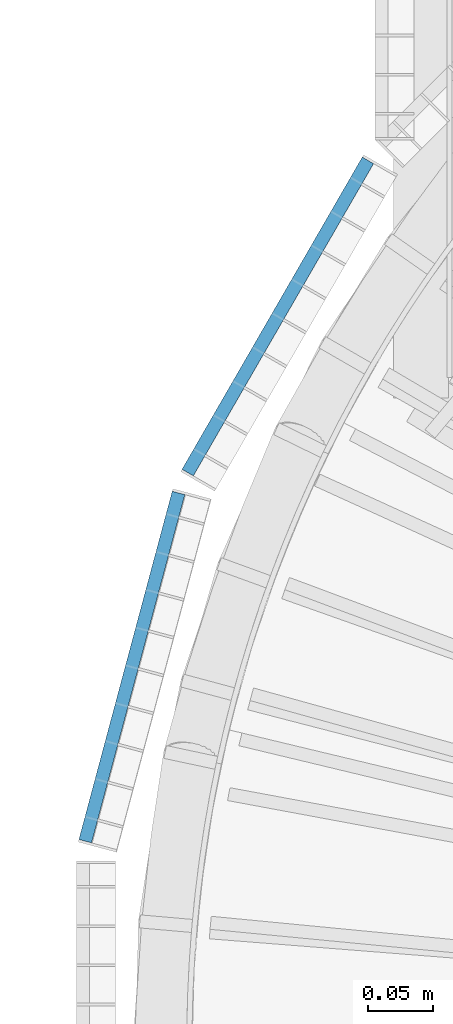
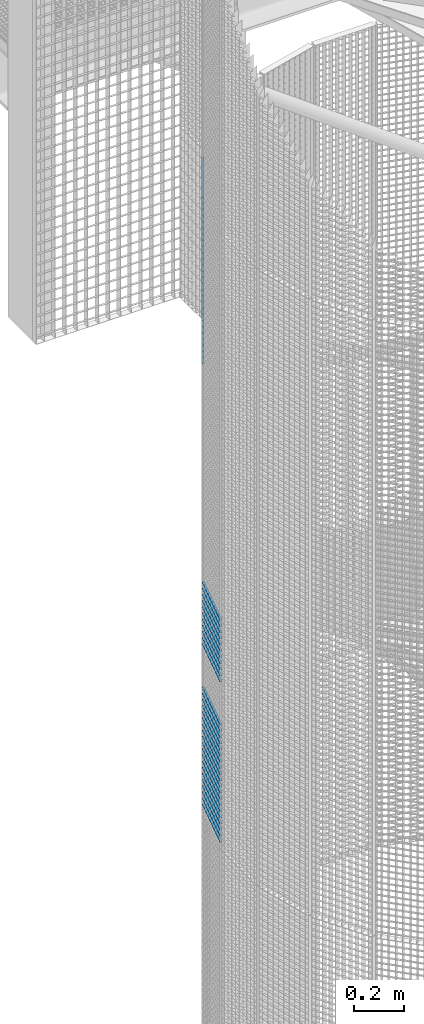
# One storey, part 207 of 1183: 59 beams, 2 elements without a shape of their own.
"""IFC2X3 building model written with IfcOpenShell, lengths in millimetres."""

from ifc_helpers import new_model, si_unit, frame, origin_with_axes, origin_2d_with_axis, place, context, subcontext, project, spatial, rectangle, extrude, material, type_object, element, aggregate, save


model = new_model("IFC2X3")

# Units and contexts
model_context = context("Model", 3, precision=1e-05, world=origin_with_axes())
body_context = subcontext(model_context, "Body", "Model", "MODEL_VIEW")
ifc_project = project(units=[si_unit("LENGTHUNIT", "METRE", prefix="MILLI"), si_unit("AREAUNIT", "SQUARE_METRE"), si_unit("VOLUMEUNIT", "CUBIC_METRE"), si_unit("MASSUNIT", "GRAM", prefix="KILO"), si_unit("TIMEUNIT", "SECOND"), si_unit("PLANEANGLEUNIT", "RADIAN"), si_unit("SOLIDANGLEUNIT", "STERADIAN"), si_unit("THERMODYNAMICTEMPERATUREUNIT", "DEGREE_CELSIUS"), si_unit("LUMINOUSINTENSITYUNIT", "LUMEN")], contexts=[model_context])

# Site, building, storey
site_placement = place(None, origin_with_axes())
site = spatial("IfcSite", under=ifc_project, at=site_placement, Name="Undefined", CompositionType="ELEMENT")
building_placement = place(site_placement, origin_with_axes())
building = spatial("IfcBuilding", under=site, at=building_placement, Name="Undefined", CompositionType="ELEMENT")
storey_placement = place(building_placement, origin_with_axes())
storey = spatial("IfcBuildingStorey", under=building, at=storey_placement, Name="Undefined", CompositionType="ELEMENT", Elevation=0.0)

# Assembly, beams
assembly_1_placement = place(storey_placement, origin_with_axes())
assembly_1 = element("IfcElementAssembly", 1, at=assembly_1_placement, inside=storey, Name="BORDURE", AssemblyPlace="NOTDEFINED", PredefinedType="NOTDEFINED")
ifc_material = material(Name="STEEL/S235JR")
beam_type = type_object("IfcBeamType", Name="PL2*10", PredefinedType="NOTDEFINED")
beam_1_placement = place(assembly_1_placement, frame((-1040.30888419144, 421.618038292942, 3600.0), z_axis=(-0.965925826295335, 0.258819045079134, 0.0), x_axis=(-0.258819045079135, -0.965925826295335, 0.0)))
beam_1 = element("IfcBeam", 2, at=beam_1_placement, type_object=beam_type, material=ifc_material, Name="ENTRETOISE", context=body_context, shape_type="SweptSolid", body=[
    extrude(rectangle(XDim=2.0, YDim=10.0, at=origin_2d_with_axis()), frame((275.999999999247, 9.09494701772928e-13, 1.53210777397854e-14), z_axis=(-1.0, 0.0, 0.0), x_axis=(0.0, -1.0, 0.0)), (0.0, 0.0, 1.0), 276.0),
])
beam_2_placement = place(assembly_1_placement, frame((-1040.30888419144, 421.618038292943, 3810.0), z_axis=(-0.965925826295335, 0.258819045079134, 0.0), x_axis=(-0.258819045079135, -0.965925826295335, 0.0)))
beam_2 = element("IfcBeam", 3, at=beam_2_placement, type_object=beam_type, material=ifc_material, Name="ENTRETOISE", context=body_context, shape_type="SweptSolid", body=[
    extrude(rectangle(XDim=2.0, YDim=10.0, at=origin_2d_with_axis()), frame((275.999999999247, 9.09494701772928e-13, 1.53210777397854e-14), z_axis=(-1.0, 0.0, 0.0), x_axis=(0.0, -1.0, 0.0)), (0.0, 0.0, 1.0), 276.0),
])
beam_3_placement = place(assembly_1_placement, frame((-1040.30888419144, 421.618038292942, 3570.0), z_axis=(-0.965925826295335, 0.258819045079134, 0.0), x_axis=(-0.258819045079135, -0.965925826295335, 0.0)))
beam_3 = element("IfcBeam", 4, at=beam_3_placement, type_object=beam_type, material=ifc_material, Name="ENTRETOISE", context=body_context, shape_type="SweptSolid", body=[
    extrude(rectangle(XDim=2.0, YDim=10.0, at=origin_2d_with_axis()), frame((275.999999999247, 9.09494701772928e-13, 1.53210777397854e-14), z_axis=(-1.0, 0.0, 0.0), x_axis=(0.0, -1.0, 0.0)), (0.0, 0.0, 1.0), 276.0),
])
beam_4_placement = place(assembly_1_placement, frame((-1040.30888419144, 421.618038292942, 3540.0), z_axis=(-0.965925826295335, 0.258819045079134, 0.0), x_axis=(-0.258819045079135, -0.965925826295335, 0.0)))
beam_4 = element("IfcBeam", 5, at=beam_4_placement, type_object=beam_type, material=ifc_material, Name="ENTRETOISE", context=body_context, shape_type="SweptSolid", body=[
    extrude(rectangle(XDim=2.0, YDim=10.0, at=origin_2d_with_axis()), frame((275.999999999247, 9.09494701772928e-13, 1.53210777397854e-14), z_axis=(-1.0, 0.0, 0.0), x_axis=(0.0, -1.0, 0.0)), (0.0, 0.0, 1.0), 276.0),
])
beam_5_placement = place(assembly_1_placement, frame((-1040.30888419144, 421.618038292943, 3840.0), z_axis=(-0.965925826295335, 0.258819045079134, 0.0), x_axis=(-0.258819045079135, -0.965925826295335, 0.0)))
beam_5 = element("IfcBeam", 6, at=beam_5_placement, type_object=beam_type, material=ifc_material, Name="ENTRETOISE", context=body_context, shape_type="SweptSolid", body=[
    extrude(rectangle(XDim=2.0, YDim=10.0, at=origin_2d_with_axis()), frame((275.999999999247, 9.09494701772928e-13, 1.53210777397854e-14), z_axis=(-1.0, 0.0, 0.0), x_axis=(0.0, -1.0, 0.0)), (0.0, 0.0, 1.0), 276.0),
])
beam_6_placement = place(assembly_1_placement, frame((-1040.30888419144, 421.618038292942, 3510.0), z_axis=(-0.965925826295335, 0.258819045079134, 0.0), x_axis=(-0.258819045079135, -0.965925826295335, 0.0)))
beam_6 = element("IfcBeam", 7, at=beam_6_placement, type_object=beam_type, material=ifc_material, Name="ENTRETOISE", context=body_context, shape_type="SweptSolid", body=[
    extrude(rectangle(XDim=2.0, YDim=10.0, at=origin_2d_with_axis()), frame((275.999999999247, 9.09494701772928e-13, 1.53210777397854e-14), z_axis=(-1.0, 0.0, 0.0), x_axis=(0.0, -1.0, 0.0)), (0.0, 0.0, 1.0), 276.0),
])
beam_7_placement = place(assembly_1_placement, frame((-1040.30888419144, 421.618038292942, 3480.0), z_axis=(-0.965925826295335, 0.258819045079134, 0.0), x_axis=(-0.258819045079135, -0.965925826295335, 0.0)))
beam_7 = element("IfcBeam", 8, at=beam_7_placement, type_object=beam_type, material=ifc_material, Name="ENTRETOISE", context=body_context, shape_type="SweptSolid", body=[
    extrude(rectangle(XDim=2.0, YDim=10.0, at=origin_2d_with_axis()), frame((275.999999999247, 9.09494701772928e-13, 1.53210777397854e-14), z_axis=(-1.0, 0.0, 0.0), x_axis=(0.0, -1.0, 0.0)), (0.0, 0.0, 1.0), 276.0),
])
beam_8_placement = place(assembly_1_placement, frame((-1040.30888419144, 421.618038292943, 3870.0), z_axis=(-0.965925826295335, 0.258819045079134, 0.0), x_axis=(-0.258819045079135, -0.965925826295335, 0.0)))
beam_8 = element("IfcBeam", 9, at=beam_8_placement, type_object=beam_type, material=ifc_material, Name="ENTRETOISE", context=body_context, shape_type="SweptSolid", body=[
    extrude(rectangle(XDim=2.0, YDim=10.0, at=origin_2d_with_axis()), frame((275.999999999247, 9.09494701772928e-13, 1.53210777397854e-14), z_axis=(-1.0, 0.0, 0.0), x_axis=(0.0, -1.0, 0.0)), (0.0, 0.0, 1.0), 276.0),
])
beam_9_placement = place(assembly_1_placement, frame((-1040.30888419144, 421.618038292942, 3450.0), z_axis=(-0.965925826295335, 0.258819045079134, 0.0), x_axis=(-0.258819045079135, -0.965925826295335, 0.0)))
beam_9 = element("IfcBeam", 10, at=beam_9_placement, type_object=beam_type, material=ifc_material, Name="ENTRETOISE", context=body_context, shape_type="SweptSolid", body=[
    extrude(rectangle(XDim=2.0, YDim=10.0, at=origin_2d_with_axis()), frame((275.999999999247, 9.09494701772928e-13, 1.53210777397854e-14), z_axis=(-1.0, 0.0, 0.0), x_axis=(0.0, -1.0, 0.0)), (0.0, 0.0, 1.0), 276.0),
])
beam_10_placement = place(assembly_1_placement, frame((-1040.30888419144, 421.618038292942, 3420.0), z_axis=(-0.965925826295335, 0.258819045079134, 0.0), x_axis=(-0.258819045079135, -0.965925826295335, 0.0)))
beam_10 = element("IfcBeam", 11, at=beam_10_placement, type_object=beam_type, material=ifc_material, Name="ENTRETOISE", context=body_context, shape_type="SweptSolid", body=[
    extrude(rectangle(XDim=2.0, YDim=10.0, at=origin_2d_with_axis()), frame((275.999999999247, 9.09494701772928e-13, 1.53210777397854e-14), z_axis=(-1.0, 0.0, 0.0), x_axis=(0.0, -1.0, 0.0)), (0.0, 0.0, 1.0), 276.0),
])
beam_11_placement = place(assembly_1_placement, frame((-1040.30888419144, 421.618038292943, 3900.0), z_axis=(-0.965925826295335, 0.258819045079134, 0.0), x_axis=(-0.258819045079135, -0.965925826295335, 0.0)))
beam_11 = element("IfcBeam", 12, at=beam_11_placement, type_object=beam_type, material=ifc_material, Name="ENTRETOISE", context=body_context, shape_type="SweptSolid", body=[
    extrude(rectangle(XDim=2.0, YDim=10.0, at=origin_2d_with_axis()), frame((275.999999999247, 9.09494701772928e-13, 1.53210777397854e-14), z_axis=(-1.0, 0.0, 0.0), x_axis=(0.0, -1.0, 0.0)), (0.0, 0.0, 1.0), 276.0),
])
beam_12_placement = place(assembly_1_placement, frame((-1040.30888419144, 421.618038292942, 3390.0), z_axis=(-0.965925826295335, 0.258819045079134, 0.0), x_axis=(-0.258819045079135, -0.965925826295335, 0.0)))
beam_12 = element("IfcBeam", 13, at=beam_12_placement, type_object=beam_type, material=ifc_material, Name="ENTRETOISE", context=body_context, shape_type="SweptSolid", body=[
    extrude(rectangle(XDim=2.0, YDim=10.0, at=origin_2d_with_axis()), frame((275.999999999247, 9.09494701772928e-13, 1.53210777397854e-14), z_axis=(-1.0, 0.0, 0.0), x_axis=(0.0, -1.0, 0.0)), (0.0, 0.0, 1.0), 276.0),
])
beam_13_placement = place(assembly_1_placement, frame((-1040.30888419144, 421.618038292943, 3930.0), z_axis=(-0.965925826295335, 0.258819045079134, 0.0), x_axis=(-0.258819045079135, -0.965925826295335, 0.0)))
beam_13 = element("IfcBeam", 14, at=beam_13_placement, type_object=beam_type, material=ifc_material, Name="ENTRETOISE", context=body_context, shape_type="SweptSolid", body=[
    extrude(rectangle(XDim=2.0, YDim=10.0, at=origin_2d_with_axis()), frame((275.999999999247, 9.09494701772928e-13, 1.53210777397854e-14), z_axis=(-1.0, 0.0, 0.0), x_axis=(0.0, -1.0, 0.0)), (0.0, 0.0, 1.0), 276.0),
])
beam_14_placement = place(assembly_1_placement, frame((-1040.30888419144, 421.618038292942, 3360.0), z_axis=(-0.965925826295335, 0.258819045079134, 0.0), x_axis=(-0.258819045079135, -0.965925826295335, 0.0)))
beam_14 = element("IfcBeam", 15, at=beam_14_placement, type_object=beam_type, material=ifc_material, Name="ENTRETOISE", context=body_context, shape_type="SweptSolid", body=[
    extrude(rectangle(XDim=2.0, YDim=10.0, at=origin_2d_with_axis()), frame((275.999999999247, 9.09494701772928e-13, 1.53210777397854e-14), z_axis=(-1.0, 0.0, 0.0), x_axis=(0.0, -1.0, 0.0)), (0.0, 0.0, 1.0), 276.0),
])
beam_15_placement = place(assembly_1_placement, frame((-1040.30888419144, 421.618038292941, 3330.0), z_axis=(-0.965925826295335, 0.258819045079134, 0.0), x_axis=(-0.258819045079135, -0.965925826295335, 0.0)))
beam_15 = element("IfcBeam", 16, at=beam_15_placement, type_object=beam_type, material=ifc_material, Name="ENTRETOISE", context=body_context, shape_type="SweptSolid", body=[
    extrude(rectangle(XDim=2.0, YDim=10.0, at=origin_2d_with_axis()), frame((275.999999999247, 9.09494701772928e-13, 1.53210777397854e-14), z_axis=(-1.0, 0.0, 0.0), x_axis=(0.0, -1.0, 0.0)), (0.0, 0.0, 1.0), 276.0),
])
beam_16_placement = place(assembly_1_placement, frame((-1040.30888419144, 421.618038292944, 3960.0), z_axis=(-0.965925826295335, 0.258819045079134, 0.0), x_axis=(-0.258819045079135, -0.965925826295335, 0.0)))
beam_16 = element("IfcBeam", 17, at=beam_16_placement, type_object=beam_type, material=ifc_material, Name="ENTRETOISE", context=body_context, shape_type="SweptSolid", body=[
    extrude(rectangle(XDim=2.0, YDim=10.0, at=origin_2d_with_axis()), frame((275.999999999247, 9.09494701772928e-13, 1.53210777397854e-14), z_axis=(-1.0, 0.0, 0.0), x_axis=(0.0, -1.0, 0.0)), (0.0, 0.0, 1.0), 276.0),
])
beam_17_placement = place(assembly_1_placement, frame((-1040.30888419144, 421.618038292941, 3300.0), z_axis=(-0.965925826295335, 0.258819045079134, 0.0), x_axis=(-0.258819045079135, -0.965925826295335, 0.0)))
beam_17 = element("IfcBeam", 18, at=beam_17_placement, type_object=beam_type, material=ifc_material, Name="ENTRETOISE", context=body_context, shape_type="SweptSolid", body=[
    extrude(rectangle(XDim=2.0, YDim=10.0, at=origin_2d_with_axis()), frame((275.999999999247, 9.09494701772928e-13, 1.53210777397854e-14), z_axis=(-1.0, 0.0, 0.0), x_axis=(0.0, -1.0, 0.0)), (0.0, 0.0, 1.0), 276.0),
])
beam_18_placement = place(assembly_1_placement, frame((-1040.30888419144, 421.618038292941, 3270.0), z_axis=(-0.965925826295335, 0.258819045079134, 0.0), x_axis=(-0.258819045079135, -0.965925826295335, 0.0)))
beam_18 = element("IfcBeam", 19, at=beam_18_placement, type_object=beam_type, material=ifc_material, Name="ENTRETOISE", context=body_context, shape_type="SweptSolid", body=[
    extrude(rectangle(XDim=2.0, YDim=10.0, at=origin_2d_with_axis()), frame((275.999999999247, 9.09494701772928e-13, 1.53210777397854e-14), z_axis=(-1.0, 0.0, 0.0), x_axis=(0.0, -1.0, 0.0)), (0.0, 0.0, 1.0), 276.0),
])
beam_19_placement = place(assembly_1_placement, frame((-1040.30888419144, 421.618038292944, 3990.0), z_axis=(-0.965925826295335, 0.258819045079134, 0.0), x_axis=(-0.258819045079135, -0.965925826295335, 0.0)))
beam_19 = element("IfcBeam", 20, at=beam_19_placement, type_object=beam_type, material=ifc_material, Name="ENTRETOISE", context=body_context, shape_type="SweptSolid", body=[
    extrude(rectangle(XDim=2.0, YDim=10.0, at=origin_2d_with_axis()), frame((275.999999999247, 9.09494701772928e-13, 1.53210777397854e-14), z_axis=(-1.0, 0.0, 0.0), x_axis=(0.0, -1.0, 0.0)), (0.0, 0.0, 1.0), 276.0),
])
beam_20_placement = place(assembly_1_placement, frame((-1040.30888419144, 421.618038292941, 3240.0), z_axis=(-0.965925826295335, 0.258819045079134, 0.0), x_axis=(-0.258819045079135, -0.965925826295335, 0.0)))
beam_20 = element("IfcBeam", 21, at=beam_20_placement, type_object=beam_type, material=ifc_material, Name="ENTRETOISE", context=body_context, shape_type="SweptSolid", body=[
    extrude(rectangle(XDim=2.0, YDim=10.0, at=origin_2d_with_axis()), frame((275.999999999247, 9.09494701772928e-13, 1.53210777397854e-14), z_axis=(-1.0, 0.0, 0.0), x_axis=(0.0, -1.0, 0.0)), (0.0, 0.0, 1.0), 276.0),
])
beam_21_placement = place(assembly_1_placement, frame((-1040.30888419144, 421.618038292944, 4020.0), z_axis=(-0.965925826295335, 0.258819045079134, 0.0), x_axis=(-0.258819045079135, -0.965925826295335, 0.0)))
beam_21 = element("IfcBeam", 22, at=beam_21_placement, type_object=beam_type, material=ifc_material, Name="ENTRETOISE", context=body_context, shape_type="SweptSolid", body=[
    extrude(rectangle(XDim=2.0, YDim=10.0, at=origin_2d_with_axis()), frame((275.999999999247, 9.09494701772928e-13, 1.53210777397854e-14), z_axis=(-1.0, 0.0, 0.0), x_axis=(0.0, -1.0, 0.0)), (0.0, 0.0, 1.0), 276.0),
])
beam_22_placement = place(assembly_1_placement, frame((-1040.30888419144, 421.618038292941, 3210.0), z_axis=(-0.965925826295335, 0.258819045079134, 0.0), x_axis=(-0.258819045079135, -0.965925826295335, 0.0)))
beam_22 = element("IfcBeam", 23, at=beam_22_placement, type_object=beam_type, material=ifc_material, Name="ENTRETOISE", context=body_context, shape_type="SweptSolid", body=[
    extrude(rectangle(XDim=2.0, YDim=10.0, at=origin_2d_with_axis()), frame((275.999999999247, 9.09494701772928e-13, 1.53210777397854e-14), z_axis=(-1.0, 0.0, 0.0), x_axis=(0.0, -1.0, 0.0)), (0.0, 0.0, 1.0), 276.0),
])
beam_23_placement = place(assembly_1_placement, frame((-1040.30888419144, 421.618038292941, 3180.0), z_axis=(-0.965925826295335, 0.258819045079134, 0.0), x_axis=(-0.258819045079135, -0.965925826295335, 0.0)))
beam_23 = element("IfcBeam", 24, at=beam_23_placement, type_object=beam_type, material=ifc_material, Name="ENTRETOISE", context=body_context, shape_type="SweptSolid", body=[
    extrude(rectangle(XDim=2.0, YDim=10.0, at=origin_2d_with_axis()), frame((275.999999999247, 9.09494701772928e-13, 1.53210777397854e-14), z_axis=(-1.0, 0.0, 0.0), x_axis=(0.0, -1.0, 0.0)), (0.0, 0.0, 1.0), 276.0),
])
beam_24_placement = place(assembly_1_placement, frame((-1040.30888419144, 421.618038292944, 4050.0), z_axis=(-0.965925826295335, 0.258819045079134, 0.0), x_axis=(-0.258819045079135, -0.965925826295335, 0.0)))
beam_24 = element("IfcBeam", 25, at=beam_24_placement, type_object=beam_type, material=ifc_material, Name="ENTRETOISE", context=body_context, shape_type="SweptSolid", body=[
    extrude(rectangle(XDim=2.0, YDim=10.0, at=origin_2d_with_axis()), frame((275.999999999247, 9.09494701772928e-13, 1.53210777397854e-14), z_axis=(-1.0, 0.0, 0.0), x_axis=(0.0, -1.0, 0.0)), (0.0, 0.0, 1.0), 276.0),
])
beam_25_placement = place(assembly_1_placement, frame((-1040.30888419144, 421.618038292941, 3150.0), z_axis=(-0.965925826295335, 0.258819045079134, 0.0), x_axis=(-0.258819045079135, -0.965925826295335, 0.0)))
beam_25 = element("IfcBeam", 26, at=beam_25_placement, type_object=beam_type, material=ifc_material, Name="ENTRETOISE", context=body_context, shape_type="SweptSolid", body=[
    extrude(rectangle(XDim=2.0, YDim=10.0, at=origin_2d_with_axis()), frame((275.999999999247, 9.09494701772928e-13, 1.53210777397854e-14), z_axis=(-1.0, 0.0, 0.0), x_axis=(0.0, -1.0, 0.0)), (0.0, 0.0, 1.0), 276.0),
])
beam_26_placement = place(assembly_1_placement, frame((-1040.30888419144, 421.618038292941, 3120.0), z_axis=(-0.965925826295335, 0.258819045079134, 0.0), x_axis=(-0.258819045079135, -0.965925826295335, 0.0)))
beam_26 = element("IfcBeam", 27, at=beam_26_placement, type_object=beam_type, material=ifc_material, Name="ENTRETOISE", context=body_context, shape_type="SweptSolid", body=[
    extrude(rectangle(XDim=2.0, YDim=10.0, at=origin_2d_with_axis()), frame((275.999999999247, 9.09494701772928e-13, 1.53210777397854e-14), z_axis=(-1.0, 0.0, 0.0), x_axis=(0.0, -1.0, 0.0)), (0.0, 0.0, 1.0), 276.0),
])
beam_27_placement = place(assembly_1_placement, frame((-1040.30888419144, 421.618038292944, 4080.0), z_axis=(-0.965925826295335, 0.258819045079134, 0.0), x_axis=(-0.258819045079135, -0.965925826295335, 0.0)))
beam_27 = element("IfcBeam", 28, at=beam_27_placement, type_object=beam_type, material=ifc_material, Name="ENTRETOISE", context=body_context, shape_type="SweptSolid", body=[
    extrude(rectangle(XDim=2.0, YDim=10.0, at=origin_2d_with_axis()), frame((275.999999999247, 9.09494701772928e-13, 1.53210777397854e-14), z_axis=(-1.0, 0.0, 0.0), x_axis=(0.0, -1.0, 0.0)), (0.0, 0.0, 1.0), 276.0),
])
beam_28_placement = place(assembly_1_placement, frame((-1040.30888419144, 421.618038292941, 3090.0), z_axis=(-0.965925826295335, 0.258819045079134, 0.0), x_axis=(-0.258819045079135, -0.965925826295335, 0.0)))
beam_28 = element("IfcBeam", 29, at=beam_28_placement, type_object=beam_type, material=ifc_material, Name="ENTRETOISE", context=body_context, shape_type="SweptSolid", body=[
    extrude(rectangle(XDim=2.0, YDim=10.0, at=origin_2d_with_axis()), frame((275.999999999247, 9.09494701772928e-13, 1.53210777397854e-14), z_axis=(-1.0, 0.0, 0.0), x_axis=(0.0, -1.0, 0.0)), (0.0, 0.0, 1.0), 276.0),
])
beam_29_placement = place(assembly_1_placement, frame((-1040.30888419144, 421.618038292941, 3060.0), z_axis=(-0.965925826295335, 0.258819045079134, 0.0), x_axis=(-0.258819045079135, -0.965925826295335, 0.0)))
beam_29 = element("IfcBeam", 30, at=beam_29_placement, type_object=beam_type, material=ifc_material, Name="ENTRETOISE", context=body_context, shape_type="SweptSolid", body=[
    extrude(rectangle(XDim=2.0, YDim=10.0, at=origin_2d_with_axis()), frame((275.999999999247, 9.09494701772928e-13, 1.53210777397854e-14), z_axis=(-1.0, 0.0, 0.0), x_axis=(0.0, -1.0, 0.0)), (0.0, 0.0, 1.0), 276.0),
])
beam_30_placement = place(assembly_1_placement, frame((-1040.30888419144, 421.618038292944, 4110.0), z_axis=(-0.965925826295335, 0.258819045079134, 0.0), x_axis=(-0.258819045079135, -0.965925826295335, 0.0)))
beam_30 = element("IfcBeam", 31, at=beam_30_placement, type_object=beam_type, material=ifc_material, Name="ENTRETOISE", context=body_context, shape_type="SweptSolid", body=[
    extrude(rectangle(XDim=2.0, YDim=10.0, at=origin_2d_with_axis()), frame((275.999999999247, 9.09494701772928e-13, 1.53210777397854e-14), z_axis=(-1.0, 0.0, 0.0), x_axis=(0.0, -1.0, 0.0)), (0.0, 0.0, 1.0), 276.0),
])
beam_31_placement = place(assembly_1_placement, frame((-1040.30888419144, 421.618038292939, 3030.0), z_axis=(-0.965925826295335, 0.258819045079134, 0.0), x_axis=(-0.258819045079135, -0.965925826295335, 0.0)))
beam_31 = element("IfcBeam", 32, at=beam_31_placement, type_object=beam_type, material=ifc_material, Name="ENTRETOISE", context=body_context, shape_type="SweptSolid", body=[
    extrude(rectangle(XDim=2.0, YDim=10.0, at=origin_2d_with_axis()), frame((275.999999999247, 9.09494701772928e-13, 1.53210777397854e-14), z_axis=(-1.0, 0.0, 0.0), x_axis=(0.0, -1.0, 0.0)), (0.0, 0.0, 1.0), 276.0),
])
aggregate(assembly_1, [beam_1, beam_2, beam_3, beam_4, beam_5, beam_6, beam_7, beam_8, beam_9, beam_10, beam_11, beam_12, beam_13, beam_14, beam_15, beam_16, beam_17, beam_18, beam_19, beam_20, beam_21, beam_22, beam_23, beam_24, beam_25, beam_26, beam_27, beam_28, beam_29, beam_30, beam_31])

assembly_2_placement = place(storey_placement, origin_with_axes())
assembly_2 = element("IfcElementAssembly", 33, at=assembly_2_placement, inside=storey, Name="BORDURE", AssemblyPlace="NOTDEFINED", PredefinedType="NOTDEFINED")
beam_32_placement = place(assembly_2_placement, frame((-895.303964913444, 676.248044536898, 5970.0), z_axis=(-0.866025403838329, 0.499999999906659, 0.0), x_axis=(-0.49999999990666, -0.866025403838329, 0.0)))
beam_32 = element("IfcBeam", 34, at=beam_32_placement, type_object=beam_type, material=ifc_material, Name="ENTRETOISE", context=body_context, shape_type="SweptSolid", body=[
    extrude(rectangle(XDim=2.0, YDim=10.0, at=origin_2d_with_axis()), frame((275.999999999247, 9.09494701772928e-13, 1.53210777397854e-14), z_axis=(-1.0, 0.0, 0.0), x_axis=(0.0, -1.0, 0.0)), (0.0, 0.0, 1.0), 276.0),
])
beam_33_placement = place(assembly_2_placement, frame((-895.303964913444, 676.248044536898, 5940.0), z_axis=(-0.866025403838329, 0.499999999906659, 0.0), x_axis=(-0.49999999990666, -0.866025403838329, 0.0)))
beam_33 = element("IfcBeam", 35, at=beam_33_placement, type_object=beam_type, material=ifc_material, Name="ENTRETOISE", context=body_context, shape_type="SweptSolid", body=[
    extrude(rectangle(XDim=2.0, YDim=10.0, at=origin_2d_with_axis()), frame((275.999999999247, 9.09494701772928e-13, 1.53210777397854e-14), z_axis=(-1.0, 0.0, 0.0), x_axis=(0.0, -1.0, 0.0)), (0.0, 0.0, 1.0), 276.0),
])
beam_34_placement = place(assembly_2_placement, frame((-895.303964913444, 676.248044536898, 5910.0), z_axis=(-0.866025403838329, 0.499999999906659, 0.0), x_axis=(-0.49999999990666, -0.866025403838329, 0.0)))
beam_34 = element("IfcBeam", 36, at=beam_34_placement, type_object=beam_type, material=ifc_material, Name="ENTRETOISE", context=body_context, shape_type="SweptSolid", body=[
    extrude(rectangle(XDim=2.0, YDim=10.0, at=origin_2d_with_axis()), frame((275.999999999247, 9.09494701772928e-13, 1.53210777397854e-14), z_axis=(-1.0, 0.0, 0.0), x_axis=(0.0, -1.0, 0.0)), (0.0, 0.0, 1.0), 276.0),
])
beam_35_placement = place(assembly_2_placement, frame((-895.303964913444, 676.248044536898, 5880.0), z_axis=(-0.866025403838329, 0.499999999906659, 0.0), x_axis=(-0.49999999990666, -0.866025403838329, 0.0)))
beam_35 = element("IfcBeam", 37, at=beam_35_placement, type_object=beam_type, material=ifc_material, Name="ENTRETOISE", context=body_context, shape_type="SweptSolid", body=[
    extrude(rectangle(XDim=2.0, YDim=10.0, at=origin_2d_with_axis()), frame((275.999999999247, 9.09494701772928e-13, 1.53210777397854e-14), z_axis=(-1.0, 0.0, 0.0), x_axis=(0.0, -1.0, 0.0)), (0.0, 0.0, 1.0), 276.0),
])
beam_36_placement = place(assembly_2_placement, frame((-895.303964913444, 676.248044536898, 5850.0), z_axis=(-0.866025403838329, 0.499999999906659, 0.0), x_axis=(-0.49999999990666, -0.866025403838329, 0.0)))
beam_36 = element("IfcBeam", 38, at=beam_36_placement, type_object=beam_type, material=ifc_material, Name="ENTRETOISE", context=body_context, shape_type="SweptSolid", body=[
    extrude(rectangle(XDim=2.0, YDim=10.0, at=origin_2d_with_axis()), frame((275.999999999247, 9.09494701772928e-13, 1.53210777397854e-14), z_axis=(-1.0, 0.0, 0.0), x_axis=(0.0, -1.0, 0.0)), (0.0, 0.0, 1.0), 276.0),
])
beam_37_placement = place(assembly_2_placement, frame((-895.303964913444, 676.248044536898, 5820.0), z_axis=(-0.866025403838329, 0.499999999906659, 0.0), x_axis=(-0.49999999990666, -0.866025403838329, 0.0)))
beam_37 = element("IfcBeam", 39, at=beam_37_placement, type_object=beam_type, material=ifc_material, Name="ENTRETOISE", context=body_context, shape_type="SweptSolid", body=[
    extrude(rectangle(XDim=2.0, YDim=10.0, at=origin_2d_with_axis()), frame((275.999999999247, 9.09494701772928e-13, 1.53210777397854e-14), z_axis=(-1.0, 0.0, 0.0), x_axis=(0.0, -1.0, 0.0)), (0.0, 0.0, 1.0), 276.0),
])
beam_38_placement = place(assembly_2_placement, frame((-895.303964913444, 676.248044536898, 5790.0), z_axis=(-0.866025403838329, 0.499999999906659, 0.0), x_axis=(-0.49999999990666, -0.866025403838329, 0.0)))
beam_38 = element("IfcBeam", 40, at=beam_38_placement, type_object=beam_type, material=ifc_material, Name="ENTRETOISE", context=body_context, shape_type="SweptSolid", body=[
    extrude(rectangle(XDim=2.0, YDim=10.0, at=origin_2d_with_axis()), frame((275.999999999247, 9.09494701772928e-13, 1.53210777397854e-14), z_axis=(-1.0, 0.0, 0.0), x_axis=(0.0, -1.0, 0.0)), (0.0, 0.0, 1.0), 276.0),
])
beam_39_placement = place(assembly_2_placement, frame((-895.303964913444, 676.248044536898, 5760.0), z_axis=(-0.866025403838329, 0.499999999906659, 0.0), x_axis=(-0.49999999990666, -0.866025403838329, 0.0)))
beam_39 = element("IfcBeam", 41, at=beam_39_placement, type_object=beam_type, material=ifc_material, Name="ENTRETOISE", context=body_context, shape_type="SweptSolid", body=[
    extrude(rectangle(XDim=2.0, YDim=10.0, at=origin_2d_with_axis()), frame((275.999999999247, 9.09494701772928e-13, 1.53210777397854e-14), z_axis=(-1.0, 0.0, 0.0), x_axis=(0.0, -1.0, 0.0)), (0.0, 0.0, 1.0), 276.0),
])
beam_40_placement = place(assembly_2_placement, frame((-895.303964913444, 676.248044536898, 5730.0), z_axis=(-0.866025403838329, 0.499999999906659, 0.0), x_axis=(-0.49999999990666, -0.866025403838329, 0.0)))
beam_40 = element("IfcBeam", 42, at=beam_40_placement, type_object=beam_type, material=ifc_material, Name="ENTRETOISE", context=body_context, shape_type="SweptSolid", body=[
    extrude(rectangle(XDim=2.0, YDim=10.0, at=origin_2d_with_axis()), frame((275.999999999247, 9.09494701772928e-13, 1.53210777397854e-14), z_axis=(-1.0, 0.0, 0.0), x_axis=(0.0, -1.0, 0.0)), (0.0, 0.0, 1.0), 276.0),
])
beam_41_placement = place(assembly_2_placement, frame((-895.303964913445, 676.248044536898, 5700.0), z_axis=(-0.866025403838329, 0.499999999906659, 0.0), x_axis=(-0.49999999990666, -0.866025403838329, 0.0)))
beam_41 = element("IfcBeam", 43, at=beam_41_placement, type_object=beam_type, material=ifc_material, Name="ENTRETOISE", context=body_context, shape_type="SweptSolid", body=[
    extrude(rectangle(XDim=2.0, YDim=10.0, at=origin_2d_with_axis()), frame((275.999999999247, 9.09494701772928e-13, 1.53210777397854e-14), z_axis=(-1.0, 0.0, 0.0), x_axis=(0.0, -1.0, 0.0)), (0.0, 0.0, 1.0), 276.0),
])
beam_42_placement = place(assembly_2_placement, frame((-895.303964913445, 676.248044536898, 5670.0), z_axis=(-0.866025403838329, 0.499999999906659, 0.0), x_axis=(-0.49999999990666, -0.866025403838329, 0.0)))
beam_42 = element("IfcBeam", 44, at=beam_42_placement, type_object=beam_type, material=ifc_material, Name="ENTRETOISE", context=body_context, shape_type="SweptSolid", body=[
    extrude(rectangle(XDim=2.0, YDim=10.0, at=origin_2d_with_axis()), frame((275.999999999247, 9.09494701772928e-13, 1.53210777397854e-14), z_axis=(-1.0, 0.0, 0.0), x_axis=(0.0, -1.0, 0.0)), (0.0, 0.0, 1.0), 276.0),
])
beam_43_placement = place(assembly_2_placement, frame((-895.303964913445, 676.248044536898, 5640.0), z_axis=(-0.866025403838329, 0.499999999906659, 0.0), x_axis=(-0.49999999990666, -0.866025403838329, 0.0)))
beam_43 = element("IfcBeam", 45, at=beam_43_placement, type_object=beam_type, material=ifc_material, Name="ENTRETOISE", context=body_context, shape_type="SweptSolid", body=[
    extrude(rectangle(XDim=2.0, YDim=10.0, at=origin_2d_with_axis()), frame((275.999999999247, 9.09494701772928e-13, 1.53210777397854e-14), z_axis=(-1.0, 0.0, 0.0), x_axis=(0.0, -1.0, 0.0)), (0.0, 0.0, 1.0), 276.0),
])
beam_44_placement = place(assembly_2_placement, frame((-895.303964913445, 676.248044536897, 5610.0), z_axis=(-0.866025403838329, 0.499999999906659, 0.0), x_axis=(-0.49999999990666, -0.866025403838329, 0.0)))
beam_44 = element("IfcBeam", 46, at=beam_44_placement, type_object=beam_type, material=ifc_material, Name="ENTRETOISE", context=body_context, shape_type="SweptSolid", body=[
    extrude(rectangle(XDim=2.0, YDim=10.0, at=origin_2d_with_axis()), frame((275.999999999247, 9.09494701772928e-13, 1.53210777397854e-14), z_axis=(-1.0, 0.0, 0.0), x_axis=(0.0, -1.0, 0.0)), (0.0, 0.0, 1.0), 276.0),
])
beam_45_placement = place(assembly_2_placement, frame((-895.303964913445, 676.248044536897, 5580.0), z_axis=(-0.866025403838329, 0.499999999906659, 0.0), x_axis=(-0.49999999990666, -0.866025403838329, 0.0)))
beam_45 = element("IfcBeam", 47, at=beam_45_placement, type_object=beam_type, material=ifc_material, Name="ENTRETOISE", context=body_context, shape_type="SweptSolid", body=[
    extrude(rectangle(XDim=2.0, YDim=10.0, at=origin_2d_with_axis()), frame((275.999999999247, 9.09494701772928e-13, 1.53210777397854e-14), z_axis=(-1.0, 0.0, 0.0), x_axis=(0.0, -1.0, 0.0)), (0.0, 0.0, 1.0), 276.0),
])
beam_46_placement = place(assembly_2_placement, frame((-895.303964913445, 676.248044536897, 5550.0), z_axis=(-0.866025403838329, 0.499999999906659, 0.0), x_axis=(-0.49999999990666, -0.866025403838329, 0.0)))
beam_46 = element("IfcBeam", 48, at=beam_46_placement, type_object=beam_type, material=ifc_material, Name="ENTRETOISE", context=body_context, shape_type="SweptSolid", body=[
    extrude(rectangle(XDim=2.0, YDim=10.0, at=origin_2d_with_axis()), frame((275.999999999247, 9.09494701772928e-13, 1.53210777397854e-14), z_axis=(-1.0, 0.0, 0.0), x_axis=(0.0, -1.0, 0.0)), (0.0, 0.0, 1.0), 276.0),
])
beam_47_placement = place(assembly_2_placement, frame((-895.303964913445, 676.248044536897, 5520.0), z_axis=(-0.866025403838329, 0.499999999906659, 0.0), x_axis=(-0.49999999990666, -0.866025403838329, 0.0)))
beam_47 = element("IfcBeam", 49, at=beam_47_placement, type_object=beam_type, material=ifc_material, Name="ENTRETOISE", context=body_context, shape_type="SweptSolid", body=[
    extrude(rectangle(XDim=2.0, YDim=10.0, at=origin_2d_with_axis()), frame((275.999999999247, 9.09494701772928e-13, 1.53210777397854e-14), z_axis=(-1.0, 0.0, 0.0), x_axis=(0.0, -1.0, 0.0)), (0.0, 0.0, 1.0), 276.0),
])
beam_48_placement = place(assembly_2_placement, frame((-895.303964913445, 676.248044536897, 5490.0), z_axis=(-0.866025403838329, 0.499999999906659, 0.0), x_axis=(-0.49999999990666, -0.866025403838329, 0.0)))
beam_48 = element("IfcBeam", 50, at=beam_48_placement, type_object=beam_type, material=ifc_material, Name="ENTRETOISE", context=body_context, shape_type="SweptSolid", body=[
    extrude(rectangle(XDim=2.0, YDim=10.0, at=origin_2d_with_axis()), frame((275.999999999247, 9.09494701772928e-13, 1.53210777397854e-14), z_axis=(-1.0, 0.0, 0.0), x_axis=(0.0, -1.0, 0.0)), (0.0, 0.0, 1.0), 276.0),
])
beam_49_placement = place(assembly_2_placement, frame((-895.303964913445, 676.248044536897, 5460.0), z_axis=(-0.866025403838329, 0.499999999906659, 0.0), x_axis=(-0.49999999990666, -0.866025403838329, 0.0)))
beam_49 = element("IfcBeam", 51, at=beam_49_placement, type_object=beam_type, material=ifc_material, Name="ENTRETOISE", context=body_context, shape_type="SweptSolid", body=[
    extrude(rectangle(XDim=2.0, YDim=10.0, at=origin_2d_with_axis()), frame((275.999999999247, 9.09494701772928e-13, 1.53210777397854e-14), z_axis=(-1.0, 0.0, 0.0), x_axis=(0.0, -1.0, 0.0)), (0.0, 0.0, 1.0), 276.0),
])
beam_50_placement = place(assembly_2_placement, frame((-895.303964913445, 676.248044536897, 5430.0), z_axis=(-0.866025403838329, 0.499999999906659, 0.0), x_axis=(-0.49999999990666, -0.866025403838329, 0.0)))
beam_50 = element("IfcBeam", 52, at=beam_50_placement, type_object=beam_type, material=ifc_material, Name="ENTRETOISE", context=body_context, shape_type="SweptSolid", body=[
    extrude(rectangle(XDim=2.0, YDim=10.0, at=origin_2d_with_axis()), frame((275.999999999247, 9.09494701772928e-13, 1.53210777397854e-14), z_axis=(-1.0, 0.0, 0.0), x_axis=(0.0, -1.0, 0.0)), (0.0, 0.0, 1.0), 276.0),
])
beam_51_placement = place(assembly_2_placement, frame((-895.303964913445, 676.248044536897, 5400.0), z_axis=(-0.866025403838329, 0.499999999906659, 0.0), x_axis=(-0.49999999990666, -0.866025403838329, 0.0)))
beam_51 = element("IfcBeam", 53, at=beam_51_placement, type_object=beam_type, material=ifc_material, Name="ENTRETOISE", context=body_context, shape_type="SweptSolid", body=[
    extrude(rectangle(XDim=2.0, YDim=10.0, at=origin_2d_with_axis()), frame((275.999999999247, 9.09494701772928e-13, 1.53210777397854e-14), z_axis=(-1.0, 0.0, 0.0), x_axis=(0.0, -1.0, 0.0)), (0.0, 0.0, 1.0), 276.0),
])
beam_52_placement = place(assembly_2_placement, frame((-895.303964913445, 676.248044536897, 5370.0), z_axis=(-0.866025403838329, 0.499999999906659, 0.0), x_axis=(-0.49999999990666, -0.866025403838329, 0.0)))
beam_52 = element("IfcBeam", 54, at=beam_52_placement, type_object=beam_type, material=ifc_material, Name="ENTRETOISE", context=body_context, shape_type="SweptSolid", body=[
    extrude(rectangle(XDim=2.0, YDim=10.0, at=origin_2d_with_axis()), frame((275.999999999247, 9.09494701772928e-13, 1.53210777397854e-14), z_axis=(-1.0, 0.0, 0.0), x_axis=(0.0, -1.0, 0.0)), (0.0, 0.0, 1.0), 276.0),
])
beam_53_placement = place(assembly_2_placement, frame((-895.303964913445, 676.248044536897, 5340.0), z_axis=(-0.866025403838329, 0.499999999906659, 0.0), x_axis=(-0.49999999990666, -0.866025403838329, 0.0)))
beam_53 = element("IfcBeam", 55, at=beam_53_placement, type_object=beam_type, material=ifc_material, Name="ENTRETOISE", context=body_context, shape_type="SweptSolid", body=[
    extrude(rectangle(XDim=2.0, YDim=10.0, at=origin_2d_with_axis()), frame((275.999999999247, 9.09494701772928e-13, 1.53210777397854e-14), z_axis=(-1.0, 0.0, 0.0), x_axis=(0.0, -1.0, 0.0)), (0.0, 0.0, 1.0), 276.0),
])
beam_54_placement = place(assembly_2_placement, frame((-895.303964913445, 676.248044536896, 5310.0), z_axis=(-0.866025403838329, 0.499999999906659, 0.0), x_axis=(-0.49999999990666, -0.866025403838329, 0.0)))
beam_54 = element("IfcBeam", 56, at=beam_54_placement, type_object=beam_type, material=ifc_material, Name="ENTRETOISE", context=body_context, shape_type="SweptSolid", body=[
    extrude(rectangle(XDim=2.0, YDim=10.0, at=origin_2d_with_axis()), frame((275.999999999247, 9.09494701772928e-13, 1.53210777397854e-14), z_axis=(-1.0, 0.0, 0.0), x_axis=(0.0, -1.0, 0.0)), (0.0, 0.0, 1.0), 276.0),
])
beam_55_placement = place(assembly_2_placement, frame((-895.303964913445, 676.248044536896, 5280.0), z_axis=(-0.866025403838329, 0.499999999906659, 0.0), x_axis=(-0.49999999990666, -0.866025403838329, 0.0)))
beam_55 = element("IfcBeam", 57, at=beam_55_placement, type_object=beam_type, material=ifc_material, Name="ENTRETOISE", context=body_context, shape_type="SweptSolid", body=[
    extrude(rectangle(XDim=2.0, YDim=10.0, at=origin_2d_with_axis()), frame((275.999999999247, 9.09494701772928e-13, 1.53210777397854e-14), z_axis=(-1.0, 0.0, 0.0), x_axis=(0.0, -1.0, 0.0)), (0.0, 0.0, 1.0), 276.0),
])
beam_56_placement = place(assembly_2_placement, frame((-895.303964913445, 676.248044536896, 5250.0), z_axis=(-0.866025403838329, 0.499999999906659, 0.0), x_axis=(-0.49999999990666, -0.866025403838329, 0.0)))
beam_56 = element("IfcBeam", 58, at=beam_56_placement, type_object=beam_type, material=ifc_material, Name="ENTRETOISE", context=body_context, shape_type="SweptSolid", body=[
    extrude(rectangle(XDim=2.0, YDim=10.0, at=origin_2d_with_axis()), frame((275.999999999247, 9.09494701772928e-13, 1.53210777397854e-14), z_axis=(-1.0, 0.0, 0.0), x_axis=(0.0, -1.0, 0.0)), (0.0, 0.0, 1.0), 276.0),
])
beam_57_placement = place(assembly_2_placement, frame((-895.303964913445, 676.248044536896, 5220.0), z_axis=(-0.866025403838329, 0.499999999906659, 0.0), x_axis=(-0.49999999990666, -0.866025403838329, 0.0)))
beam_57 = element("IfcBeam", 59, at=beam_57_placement, type_object=beam_type, material=ifc_material, Name="ENTRETOISE", context=body_context, shape_type="SweptSolid", body=[
    extrude(rectangle(XDim=2.0, YDim=10.0, at=origin_2d_with_axis()), frame((275.999999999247, 9.09494701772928e-13, 1.53210777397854e-14), z_axis=(-1.0, 0.0, 0.0), x_axis=(0.0, -1.0, 0.0)), (0.0, 0.0, 1.0), 276.0),
])
beam_58_placement = place(assembly_2_placement, frame((-895.303964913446, 676.248044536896, 5190.0), z_axis=(-0.866025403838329, 0.499999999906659, 0.0), x_axis=(-0.49999999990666, -0.866025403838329, 0.0)))
beam_58 = element("IfcBeam", 60, at=beam_58_placement, type_object=beam_type, material=ifc_material, Name="ENTRETOISE", context=body_context, shape_type="SweptSolid", body=[
    extrude(rectangle(XDim=2.0, YDim=10.0, at=origin_2d_with_axis()), frame((275.999999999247, 9.09494701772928e-13, 1.53210777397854e-14), z_axis=(-1.0, 0.0, 0.0), x_axis=(0.0, -1.0, 0.0)), (0.0, 0.0, 1.0), 276.0),
])
beam_59_placement = place(assembly_2_placement, frame((-895.303964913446, 676.248044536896, 5160.0), z_axis=(-0.866025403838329, 0.499999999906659, 0.0), x_axis=(-0.49999999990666, -0.866025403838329, 0.0)))
beam_59 = element("IfcBeam", 61, at=beam_59_placement, type_object=beam_type, material=ifc_material, Name="ENTRETOISE", context=body_context, shape_type="SweptSolid", body=[
    extrude(rectangle(XDim=2.0, YDim=10.0, at=origin_2d_with_axis()), frame((275.999999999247, 9.09494701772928e-13, 1.53210777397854e-14), z_axis=(-1.0, 0.0, 0.0), x_axis=(0.0, -1.0, 0.0)), (0.0, 0.0, 1.0), 276.0),
])
aggregate(assembly_2, [beam_32, beam_33, beam_34, beam_35, beam_36, beam_37, beam_38, beam_39, beam_40, beam_41, beam_42, beam_43, beam_44, beam_45, beam_46, beam_47, beam_48, beam_49, beam_50, beam_51, beam_52, beam_53, beam_54, beam_55, beam_56, beam_57, beam_58, beam_59])

save(model, "model.ifc")
